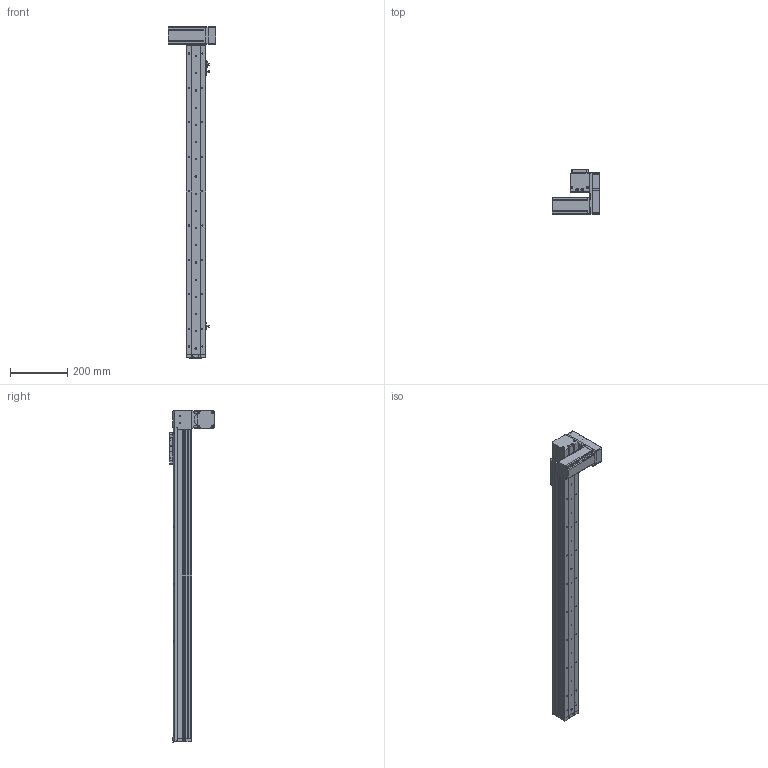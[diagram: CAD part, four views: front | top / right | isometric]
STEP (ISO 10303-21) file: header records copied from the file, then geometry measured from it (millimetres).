
FILE_DESCRIPTION (( 'STEP AP214' ), '1' );
FILE_NAME ('KSD68BS-S900-MLD-CR.STEP', '2019-08-27T03:48:44', ( '微软用户' ), ( '微软中国' ), 'SwSTEP 2.0', 'SolidWorks 2014', '' );
FILE_SCHEMA (( 'AUTOMOTIVE_DESIGN' ));
Length unit declared in the file: millimetre
Products named in the file (14): KSD68BS-S900-MLD-CR; 68宽单导轨全封闭丝杆传动安装板1防护罩; KSD68BS 900行程侧板全封闭; 68宽单导轨全封闭同步带端板; 68单导轨全封闭同步带电机座左; 68单导轨全封闭同步带安装板; KSD68BS 900行程盖板全封闭; 悵誘欶奻狟殏; 68宽马达安装板连板上折同步带; 68遵裔啣揤啣1; 感应片68宽全封闭; U倰嫖萇EEㄜSX672; 台达ECMA－C20604AS伺服电机（400W); KSD68BS 900行程底板全封闭
Assembly tree (16 placements, depth 2):
  KSD68BS-S900-MLD-CR
    KSD68BS 900行程底板全封闭
    台达ECMA－C20604AS伺服电机（400W)
    U倰嫖萇EEㄜSX672  x3
    感应片68宽全封闭
    68宽马达安装板连板上折同步带
    悵誘欶奻狟殏
    68单导轨全封闭同步带安装板
    68单导轨全封闭同步带电机座左
    68宽单导轨全封闭同步带端板
    KSD68BS 900行程侧板全封闭  x2
    68宽单导轨全封闭丝杆传动安装板1防护罩
    KSD68BS 900行程盖板全封闭
    68遵裔啣揤啣1
Bounding box: 167.2 x 155.5 x 1158.1 mm (x, y, z)
Volume: 2399932.3 mm3; surface area: 906527.7 mm2
Topology: 17 solids, 17 shells, 1468 faces, 4188 edges, 2682 vertices
Faces by surface type: cylinder 694, plane 618, cone 156
Entity records: 47219 total; most frequent: CARTESIAN_POINT 8114, DIRECTION 7078, ORIENTED_EDGE 6782, EDGE_CURVE 3391, AXIS2_PLACEMENT_3D 2550, VERTEX_POINT 2224, LINE 1978, VECTOR 1978
